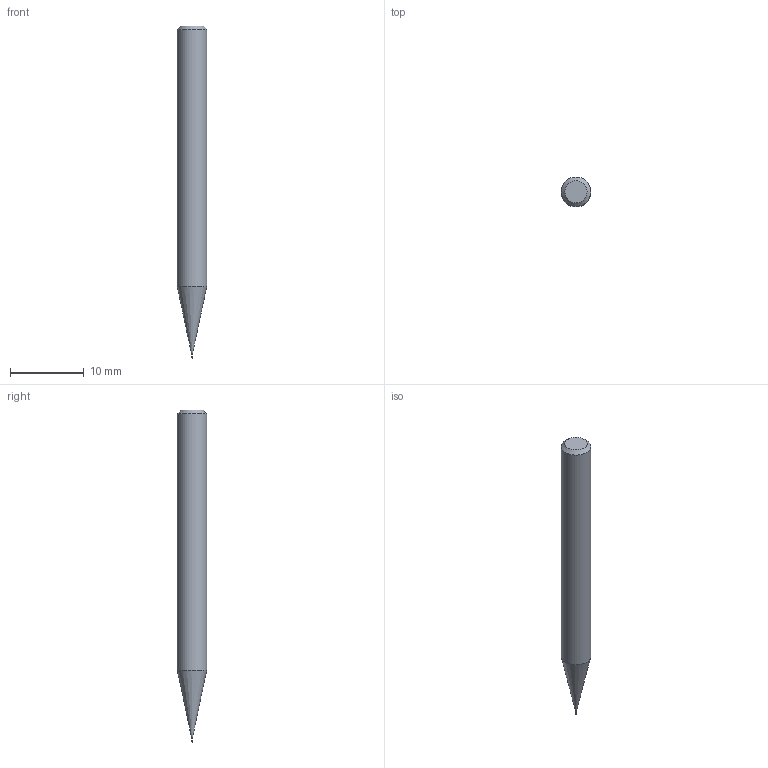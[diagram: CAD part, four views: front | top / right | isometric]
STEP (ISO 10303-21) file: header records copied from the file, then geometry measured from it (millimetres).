
FILE_DESCRIPTION((''),'2;1');
FILE_NAME('C:\Users\nsx150\AppData\Local\Temp\Mastercam 2021\AP8FW4WOPM\TEMP.step','2024-10-16T18:39:35',(''),(''),'STEP Write','Mastercam 2021 ... CNC Software, Inc.','');
FILE_SCHEMA(('AUTOMOTIVE_DESIGN'));
Length unit declared in the file: millimetre
Products named in the file (1): None
Bounding box: 4 x 4 x 45 mm (x, y, z)
Volume: 481.5 mm3; surface area: 512.8 mm2
Topology: 2 solids, 2 shells, 9 faces, 14 edges, 8 vertices
Faces by surface type: plane 3, cylinder 3, cone 2, sphere 1
Full cylindrical faces by diameter (mm): 0.13 x1, 0.15 x1, 4 x1
Entity records: 211 total; most frequent: DIRECTION 36, CARTESIAN_POINT 25, AXIS2_PLACEMENT_3D 18, ORIENTED_EDGE 14, EDGE_LOOP 14, STYLED_ITEM 12, ADVANCED_FACE 9, FACE_BOUND 8
